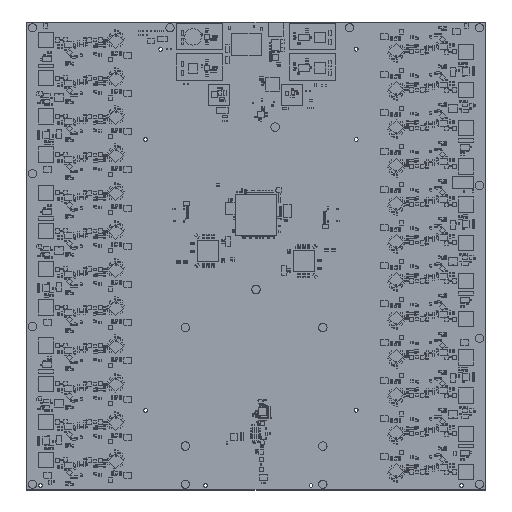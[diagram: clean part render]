
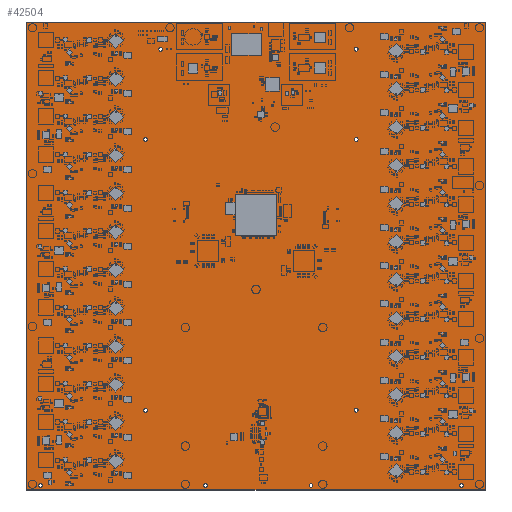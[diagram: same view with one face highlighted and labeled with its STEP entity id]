
A CAD part, top view. The second image highlights one B-rep face of the part: STEP entity #42504.
In plain terms, the highlighted planar face has unit normal (0, 0, 1).
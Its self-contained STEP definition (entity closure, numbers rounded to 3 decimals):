
#42504=ADVANCED_FACE('',(#59500,#59501,#59502,#59503,#59504,#59505,#59506,#59507,#59508,#59509,#59510),#59511,.T.);
#59500=FACE_BOUND('',#64359,.T.);
#59501=FACE_BOUND('',#64360,.T.);
#59502=FACE_BOUND('',#64361,.T.);
#59503=FACE_BOUND('',#64362,.T.);
#59504=FACE_BOUND('',#64363,.T.);
#59505=FACE_BOUND('',#64364,.T.);
#59506=FACE_BOUND('',#64365,.T.);
#59507=FACE_BOUND('',#64366,.T.);
#59508=FACE_BOUND('',#64367,.T.);
#59509=FACE_BOUND('',#64368,.T.);
#59510=FACE_OUTER_BOUND('',#64369,.T.);
#59511=PLANE('',#64370);
#64359=EDGE_LOOP('',(#66718));
#64360=EDGE_LOOP('',(#66719));
#64361=EDGE_LOOP('',(#66720));
#64362=EDGE_LOOP('',(#66721));
#64363=EDGE_LOOP('',(#66722));
#64364=EDGE_LOOP('',(#66723));
#64365=EDGE_LOOP('',(#66724));
#64366=EDGE_LOOP('',(#66725));
#64367=EDGE_LOOP('',(#66726));
#64368=EDGE_LOOP('',(#66727));
#64369=EDGE_LOOP('',(#66728,#66729,#66730,#66731));
#64370=AXIS2_PLACEMENT_3D('',#66732,#66733,#66734);
#66718=ORIENTED_EDGE('',*,*,#72190,.T.);
#66719=ORIENTED_EDGE('',*,*,#72193,.T.);
#66720=ORIENTED_EDGE('',*,*,#72196,.T.);
#66721=ORIENTED_EDGE('',*,*,#72199,.T.);
#66722=ORIENTED_EDGE('',*,*,#72202,.T.);
#66723=ORIENTED_EDGE('',*,*,#72205,.T.);
#66724=ORIENTED_EDGE('',*,*,#72208,.T.);
#66725=ORIENTED_EDGE('',*,*,#72211,.T.);
#66726=ORIENTED_EDGE('',*,*,#72214,.T.);
#66727=ORIENTED_EDGE('',*,*,#72217,.T.);
#66728=ORIENTED_EDGE('',*,*,#72220,.T.);
#66729=ORIENTED_EDGE('',*,*,#72221,.T.);
#66730=ORIENTED_EDGE('',*,*,#72222,.T.);
#66731=ORIENTED_EDGE('',*,*,#72223,.T.);
#66732=CARTESIAN_POINT('',(152.4,155.575,2.052));
#66733=DIRECTION('',(0.,0.,1.0));
#66734=DIRECTION('',(1.0,-0.0,0.));
#72190=EDGE_CURVE('',#74248,#74248,#74249,.T.);
#72193=EDGE_CURVE('',#74253,#74253,#74254,.T.);
#72196=EDGE_CURVE('',#74258,#74258,#74259,.T.);
#72199=EDGE_CURVE('',#74263,#74263,#74264,.T.);
#72202=EDGE_CURVE('',#74268,#74268,#74269,.T.);
#72205=EDGE_CURVE('',#74273,#74273,#74274,.T.);
#72208=EDGE_CURVE('',#74278,#74278,#74279,.T.);
#72211=EDGE_CURVE('',#74283,#74283,#74284,.T.);
#72214=EDGE_CURVE('',#74288,#74288,#74289,.T.);
#72217=EDGE_CURVE('',#74293,#74293,#74294,.T.);
#72220=EDGE_CURVE('',#74298,#74299,#74300,.T.);
#72221=EDGE_CURVE('',#74299,#74301,#74302,.T.);
#72222=EDGE_CURVE('',#74301,#74303,#74304,.T.);
#72223=EDGE_CURVE('',#74303,#74298,#74305,.T.);
#74248=VERTEX_POINT('',#77182);
#74249=CIRCLE('',#77183,1.25);
#74253=VERTEX_POINT('',#77187);
#74254=CIRCLE('',#77188,1.25);
#74258=VERTEX_POINT('',#77192);
#74259=CIRCLE('',#77193,1.25);
#74263=VERTEX_POINT('',#77197);
#74264=CIRCLE('',#77198,1.25);
#74268=VERTEX_POINT('',#77202);
#74269=CIRCLE('',#77203,1.25);
#74273=VERTEX_POINT('',#77207);
#74274=CIRCLE('',#77208,1.25);
#74278=VERTEX_POINT('',#77212);
#74279=CIRCLE('',#77213,1.25);
#74283=VERTEX_POINT('',#77217);
#74284=CIRCLE('',#77218,1.25);
#74288=VERTEX_POINT('',#77222);
#74289=CIRCLE('',#77223,1.25);
#74293=VERTEX_POINT('',#77227);
#74294=CIRCLE('',#77228,1.25);
#74298=VERTEX_POINT('',#77232);
#74299=VERTEX_POINT('',#77233);
#74300=LINE('',#77234,#77235);
#74301=VERTEX_POINT('',#77236);
#74302=LINE('',#77237,#77238);
#74303=VERTEX_POINT('',#77239);
#74304=LINE('',#77240,#77241);
#74305=LINE('',#77242,#77243);
#77182=CARTESIAN_POINT('',(77.75,53.0,2.052));
#77183=AXIS2_PLACEMENT_3D('',#81355,#81356,#81357);
#77187=CARTESIAN_POINT('',(217.75,53.0,2.052));
#77188=AXIS2_PLACEMENT_3D('',#81361,#81362,#81363);
#77192=CARTESIAN_POINT('',(77.75,233.0,2.052));
#77193=AXIS2_PLACEMENT_3D('',#81367,#81368,#81369);
#77197=CARTESIAN_POINT('',(217.75,233.0,2.052));
#77198=AXIS2_PLACEMENT_3D('',#81373,#81374,#81375);
#77202=CARTESIAN_POINT('',(217.75,293.0,2.052));
#77203=AXIS2_PLACEMENT_3D('',#81379,#81380,#81381);
#77207=CARTESIAN_POINT('',(87.75,293.0,2.052));
#77208=AXIS2_PLACEMENT_3D('',#81385,#81386,#81387);
#77212=CARTESIAN_POINT('',(287.75,3.0,2.052));
#77213=AXIS2_PLACEMENT_3D('',#81391,#81392,#81393);
#77217=CARTESIAN_POINT('',(187.75,3.0,2.052));
#77218=AXIS2_PLACEMENT_3D('',#81397,#81398,#81399);
#77222=CARTESIAN_POINT('',(117.75,3.0,2.052));
#77223=AXIS2_PLACEMENT_3D('',#81403,#81404,#81405);
#77227=CARTESIAN_POINT('',(7.75,3.0,2.052));
#77228=AXIS2_PLACEMENT_3D('',#81409,#81410,#81411);
#77232=CARTESIAN_POINT('',(0.,311.15,2.052));
#77233=CARTESIAN_POINT('',(0.,0.,2.052));
#77234=CARTESIAN_POINT('',(0.,155.575,2.052));
#77235=VECTOR('',#81415,1.0);
#77236=CARTESIAN_POINT('',(304.8,0.,2.052));
#77237=CARTESIAN_POINT('',(152.4,0.,2.052));
#77238=VECTOR('',#81416,1.0);
#77239=CARTESIAN_POINT('',(304.8,311.15,2.052));
#77240=CARTESIAN_POINT('',(304.8,155.575,2.052));
#77241=VECTOR('',#81417,1.0);
#77242=CARTESIAN_POINT('',(152.4,311.15,2.052));
#77243=VECTOR('',#81418,1.0);
#81355=CARTESIAN_POINT('',(79.0,53.0,2.052));
#81356=DIRECTION('',(0.,0.,-1.0));
#81357=DIRECTION('',(-1.0,0.,0.));
#81361=CARTESIAN_POINT('',(219.0,53.0,2.052));
#81362=DIRECTION('',(0.,0.,-1.0));
#81363=DIRECTION('',(-1.0,0.,0.));
#81367=CARTESIAN_POINT('',(79.0,233.0,2.052));
#81368=DIRECTION('',(0.,0.,-1.0));
#81369=DIRECTION('',(-1.0,0.,0.));
#81373=CARTESIAN_POINT('',(219.0,233.0,2.052));
#81374=DIRECTION('',(0.,0.,-1.0));
#81375=DIRECTION('',(-1.0,0.,0.));
#81379=CARTESIAN_POINT('',(219.0,293.0,2.052));
#81380=DIRECTION('',(0.,0.,-1.0));
#81381=DIRECTION('',(-1.0,0.,0.));
#81385=CARTESIAN_POINT('',(89.0,293.0,2.052));
#81386=DIRECTION('',(0.,0.,-1.0));
#81387=DIRECTION('',(-1.0,0.,0.));
#81391=CARTESIAN_POINT('',(289.0,3.0,2.052));
#81392=DIRECTION('',(0.,0.,-1.0));
#81393=DIRECTION('',(-1.0,0.,0.));
#81397=CARTESIAN_POINT('',(189.0,3.0,2.052));
#81398=DIRECTION('',(0.,0.,-1.0));
#81399=DIRECTION('',(-1.0,0.,0.));
#81403=CARTESIAN_POINT('',(119.0,3.0,2.052));
#81404=DIRECTION('',(0.,0.,-1.0));
#81405=DIRECTION('',(-1.0,0.,0.));
#81409=CARTESIAN_POINT('',(9.0,3.0,2.052));
#81410=DIRECTION('',(0.,0.,-1.0));
#81411=DIRECTION('',(-1.0,0.,0.));
#81415=DIRECTION('',(0.0,-1.0,0.0));
#81416=DIRECTION('',(1.0,0.0,0.0));
#81417=DIRECTION('',(0.0,1.0,0.0));
#81418=DIRECTION('',(-1.0,0.0,0.0));
